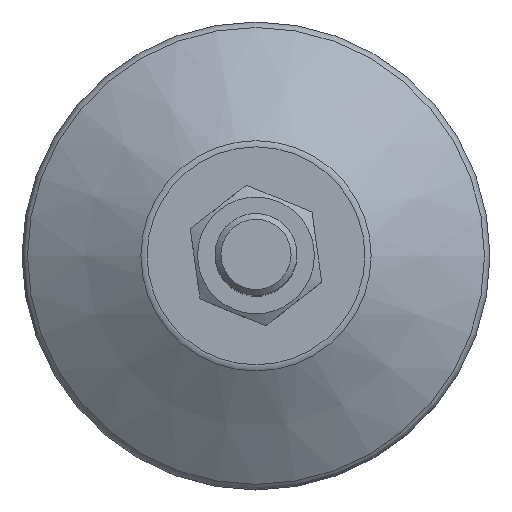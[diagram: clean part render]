
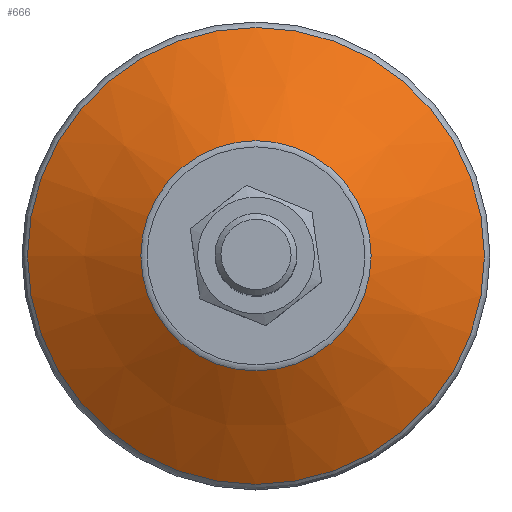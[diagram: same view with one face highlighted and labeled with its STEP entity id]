
A CAD part, top view. The second image highlights one B-rep face of the part: STEP entity #666.
In plain terms, the highlighted conical face has half-angle 58 degrees and reference radius 29.371 mm.
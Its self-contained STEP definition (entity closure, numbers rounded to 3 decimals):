
#666=ADVANCED_FACE('',(#2333,#2335),#2337,.T.);
#2333=FACE_BOUND('',#2334,.T.);
#2334=EDGE_LOOP('',(#3579,#3580));
#2335=FACE_BOUND('',#2336,.T.);
#2336=EDGE_LOOP('',(#3581,#3582));
#2337=CONICAL_SURFACE('',#2338,29.371,1.012);
#2338=AXIS2_PLACEMENT_3D('',#2339,#2340,#2341);
#2339=CARTESIAN_POINT('',(0.,0.,11.642));
#2340=DIRECTION('',(0.,0.,-1.));
#2341=DIRECTION('',(1.,0.,0.));
#3579=ORIENTED_EDGE('',*,*,#4371,.T.);
#3580=ORIENTED_EDGE('',*,*,#4372,.T.);
#3581=ORIENTED_EDGE('',*,*,#4370,.F.);
#3582=ORIENTED_EDGE('',*,*,#4369,.F.);
#4369=EDGE_CURVE('',#4875,#4876,#4877,.T.);
#4370=EDGE_CURVE('',#4876,#4875,#4878,.T.);
#4371=EDGE_CURVE('',#4879,#4880,#4881,.T.);
#4372=EDGE_CURVE('',#4880,#4879,#4882,.T.);
#4875=VERTEX_POINT('',#6799);
#4876=VERTEX_POINT('',#6800);
#4877=CIRCLE('',#6801,19.682);
#4878=CIRCLE('',#6805,19.682);
#4879=VERTEX_POINT('',#6809);
#4880=VERTEX_POINT('',#6810);
#4881=CIRCLE('',#6811,39.06);
#4882=CIRCLE('',#6815,39.06);
#6799=CARTESIAN_POINT('',(19.682,0.,17.696));
#6800=CARTESIAN_POINT('',(-19.682,0.,17.696));
#6801=AXIS2_PLACEMENT_3D('',#6802,#6803,#6804);
#6802=CARTESIAN_POINT('',(0.,0.,17.696));
#6803=DIRECTION('',(0.,0.,1.));
#6804=DIRECTION('',(1.,0.,0.));
#6805=AXIS2_PLACEMENT_3D('',#6806,#6807,#6808);
#6806=CARTESIAN_POINT('',(0.,0.,17.696));
#6807=DIRECTION('',(0.,0.,1.));
#6808=DIRECTION('',(-1.,0.,0.));
#6809=CARTESIAN_POINT('',(39.06,0.,5.587));
#6810=CARTESIAN_POINT('',(-39.06,0.,5.587));
#6811=AXIS2_PLACEMENT_3D('',#6812,#6813,#6814);
#6812=CARTESIAN_POINT('',(0.,0.,5.587));
#6813=DIRECTION('',(0.,0.,1.));
#6814=DIRECTION('',(1.,0.,0.));
#6815=AXIS2_PLACEMENT_3D('',#6816,#6817,#6818);
#6816=CARTESIAN_POINT('',(0.,0.,5.587));
#6817=DIRECTION('',(0.,0.,1.));
#6818=DIRECTION('',(-1.,0.,0.));
